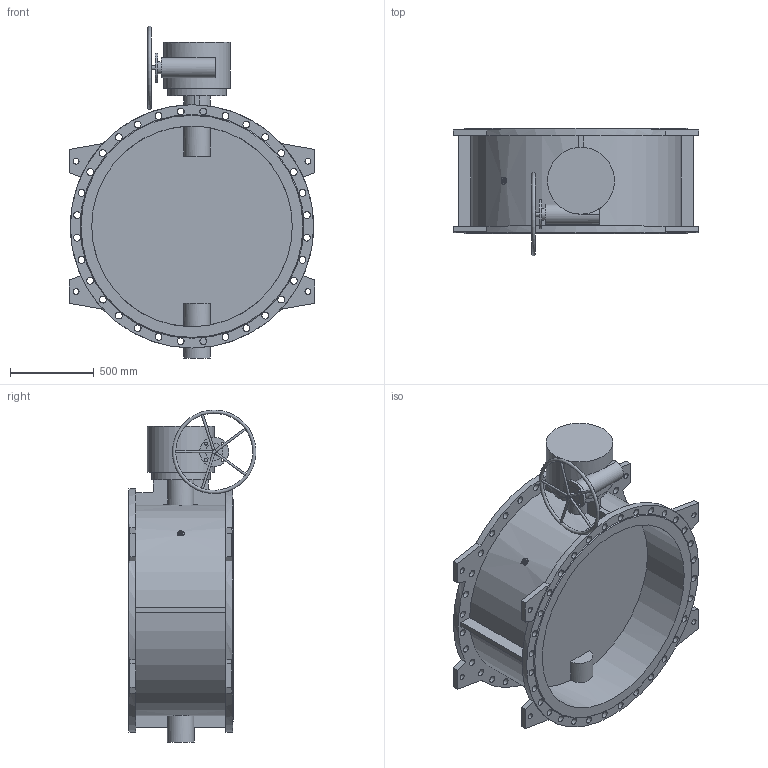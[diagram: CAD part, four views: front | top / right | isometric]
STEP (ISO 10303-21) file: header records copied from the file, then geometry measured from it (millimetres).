
FILE_DESCRIPTION(('STEP AP203'), '1');
FILE_NAME('Çàòâîð 023F.Z DN1200 PN10_ìàõ', '', ('UNSPECIFIED'), ('UNSPECIFIED'), 'ASCON STEP Converter 1.6', 'ASCON Math Kernel', '');
FILE_SCHEMA(('CONFIG_CONTROL_DESIGN'));
Length unit declared in the file: millimetre
Bounding box: 1466 x 764.13 x 1984.95 mm (x, y, z)
Volume: 262184115.8 mm3; surface area: 10641455.6 mm2
Topology: 1 solids, 1 shells, 228 faces, 585 edges, 389 vertices
Faces by surface type: cylinder 127, plane 98, cone 2, torus 1
Full cylindrical faces by diameter (mm): 14 x5, 18 x12, 23 x8, 24 x1, 35 x8, 41 x64, 70 x1, 100 x1, 120 x1, 160 x1, 175 x1, 350 x1, 400 x1, 1200 x2, 1455 x2
Entity records: 11353 total; most frequent: CARTESIAN_POINT 3912, DIRECTION 1149, ORIENTED_EDGE 936, EDGE_LOOP 531, AXIS2_PLACEMENT_3D 484, EDGE_CURVE 468, VERTEX_POINT 387, FACE_BOUND 315
